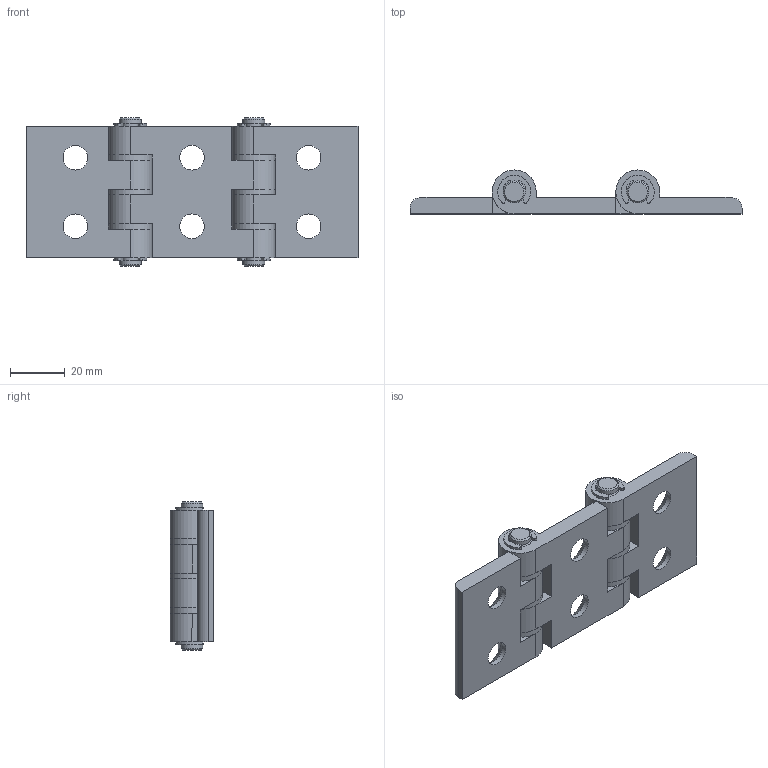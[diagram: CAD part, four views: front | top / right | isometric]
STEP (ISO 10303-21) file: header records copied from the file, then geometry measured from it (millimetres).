
FILE_DESCRIPTION(/* description */ ('Cerniera in Alluminio 3 stadi profilo 40-45'),/* implementation_level */ '2;1');
FILE_NAME(/* name */ 'C:\Users\Stefan.Nesic\Desktop\01010STEP\HTC40-45.stp',/* time_stamp */ '2022-06-17T14:54:02+02:00',/* author */ ('USER'),/* organization */ ('Microsoft'),/* preprocessor_version */ 'ST-DEVELOPER v18.1',/* originating_system */ 'Autodesk Inventor 2021',/* authorisation */ '');
FILE_SCHEMA (('AUTOMOTIVE_DESIGN { 1 0 10303 214 3 1 1 }'));
Length unit declared in the file: millimetre
Products named in the file (1): HTC40-45
Bounding box: 121 x 16 x 54 mm (x, y, z)
Surface area: 23035.4 mm2 (no closed solid volume)
Topology: 0 solids, 19 shells, 168 faces, 446 edges, 308 vertices
Faces by surface type: plane 90, cylinder 68, cone 10
Full cylindrical faces by diameter (mm): 6 x4, 8 x6, 9 x6, 16 x6
Entity records: 5338 total; most frequent: DIRECTION 972, CARTESIAN_POINT 923, ORIENTED_EDGE 760, EDGE_CURVE 446, AXIS2_PLACEMENT_3D 357, VERTEX_POINT 308, LINE 258, VECTOR 258
